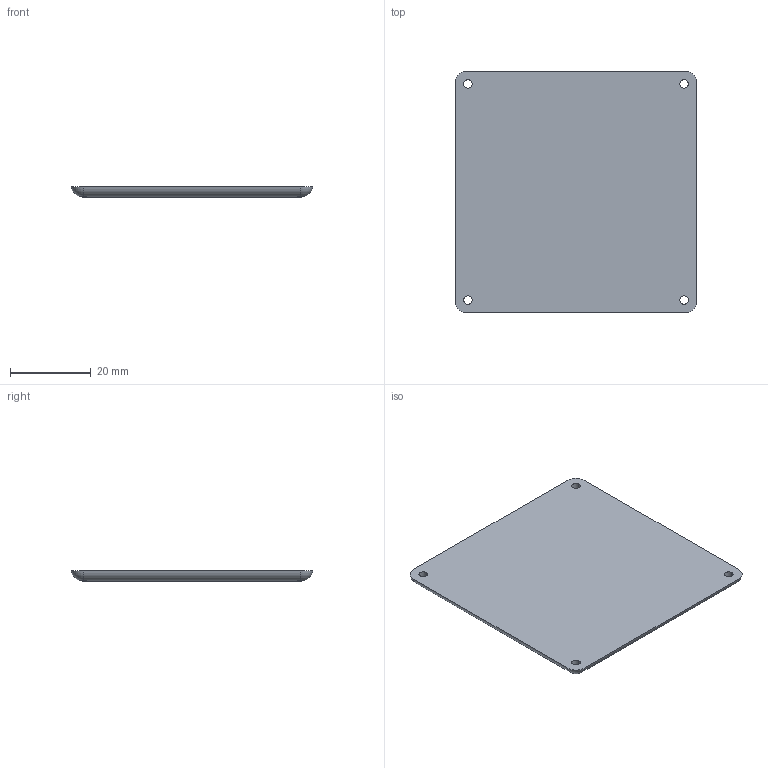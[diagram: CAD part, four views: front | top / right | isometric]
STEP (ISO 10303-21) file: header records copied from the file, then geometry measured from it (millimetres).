
FILE_DESCRIPTION (( 'STEP AP214' ), '1' );
FILE_NAME ('Control_box1.STEP', '2026-09-16T06:35:34', ( '' ), ( '' ), 'SwSTEP 2.0', 'SolidWorks 2024', '' );
FILE_SCHEMA (( 'AUTOMOTIVE_DESIGN' ));
Length unit declared in the file: millimetre
Products named in the file (2): 控制盒盖; Control_box1
Assembly tree (1 placements, depth 2):
  Control_box1
    控制盒盖
Bounding box: 60 x 60 x 2.5 mm (x, y, z)
Volume: 8526.6 mm3; surface area: 7511.8 mm2
Topology: 1 solids, 1 shells, 18 faces, 60 edges, 40 vertices
Faces by surface type: cylinder 12, torus 4, plane 2
Entity records: 803 total; most frequent: CARTESIAN_POINT 214, ORIENTED_EDGE 120, DIRECTION 116, EDGE_CURVE 60, AXIS2_PLACEMENT_3D 50, VERTEX_POINT 40, CIRCLE 28, EDGE_LOOP 22
